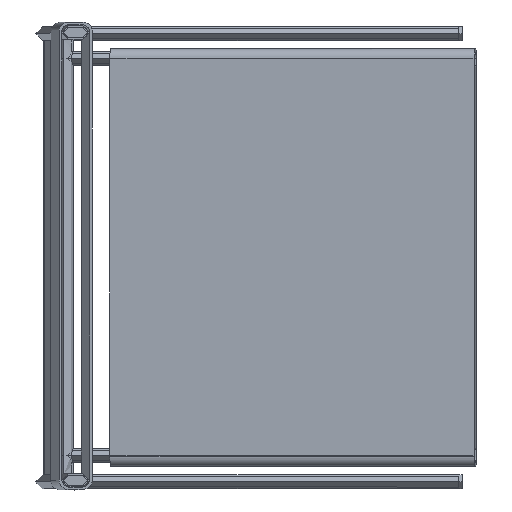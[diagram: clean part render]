
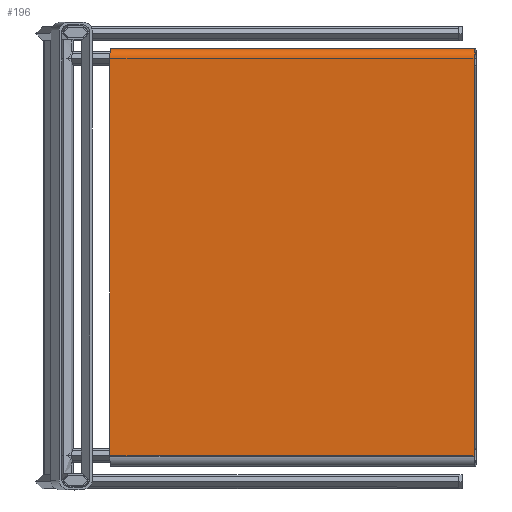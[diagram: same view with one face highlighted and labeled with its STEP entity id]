
A CAD part, top view. The second image highlights one B-rep face of the part: STEP entity #196.
In plain terms, the highlighted free-form (B-spline) face has degree [1, 3] with [2, 19] control points.
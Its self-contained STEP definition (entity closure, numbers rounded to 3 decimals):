
#196=ADVANCED_FACE($,(#415),#2844,.T.);
#415=FACE_OUTER_BOUND($,#636,.T.);
#636=EDGE_LOOP($,(#1040,#1041,#1042,#1043));
#1040=ORIENTED_EDGE($,*,*,#2014,.F.);
#1041=ORIENTED_EDGE($,*,*,#2018,.T.);
#1042=ORIENTED_EDGE($,*,*,#2012,.F.);
#1043=ORIENTED_EDGE($,*,*,#2009,.F.);
#2009=EDGE_CURVE($,#2507,#2506,#3395,.T.);
#2012=EDGE_CURVE($,#2506,#2510,#3398,.T.);
#2014=EDGE_CURVE($,#2511,#2507,#3400,.T.);
#2018=EDGE_CURVE($,#2511,#2510,#3404,.T.);
#2506=VERTEX_POINT($,#6092);
#2507=VERTEX_POINT($,#6093);
#2510=VERTEX_POINT($,#6096);
#2511=VERTEX_POINT($,#6097);
#2844=(
BOUNDED_SURFACE()
B_SPLINE_SURFACE(1,3,((#6022,#6023,#6024,#6025,#6026,#6027,#6028,#6029,#6030,
#6031,#6032,#6033,#6034,#6035,#6036,#6037,#6038,#6039,#6040),(#6041,#6042,
#6043,#6044,#6045,#6046,#6047,#6048,#6049,#6050,#6051,#6052,#6053,#6054,
#6055,#6056,#6057,#6058,#6059)),.UNSPECIFIED.,.F.,.F.,.F.)
B_SPLINE_SURFACE_WITH_KNOTS((2,2),(4,1,1,1,3,3,1,1,1,3,4),(0.,395.),
(887.567,891.713,896.206,900.698,904.844,
919.844,923.991,928.483,932.975,937.122,
1367.122),.UNSPECIFIED.)
GEOMETRIC_REPRESENTATION_ITEM()
RATIONAL_B_SPLINE_SURFACE(((1.,1.,1.,1.,1.,1.,1.,1.,1.,1.,1.,1.,1.,1.,1.,
1.,1.,1.,1.),(1.,1.,1.,1.,1.,1.,1.,1.,1.,1.,1.,1.,1.,1.,1.,1.,1.,1.,1.)))
REPRESENTATION_ITEM($)
SURFACE()
);
#3395=(
BOUNDED_CURVE()
B_SPLINE_CURVE(3,(#5833,#5834,#5835,#5836,#5837,#5838,#5839,#5840,#5841,
#5842,#5843,#5844,#5845,#5846,#5847,#5848,#5849,#5850,#5851),.UNSPECIFIED.,
.F.,.F.)
B_SPLINE_CURVE_WITH_KNOTS((4,1,1,1,3,3,1,1,1,3,4),(887.567,891.713,
896.206,900.698,904.844,919.844,923.991,
928.483,932.975,937.122,1367.122),.UNSPECIFIED.)
CURVE()
GEOMETRIC_REPRESENTATION_ITEM()
RATIONAL_B_SPLINE_CURVE((1.,1.,1.,1.,1.,1.,1.,1.,1.,1.,1.,1.,1.,1.,1.,1.,
1.,1.,1.))
REPRESENTATION_ITEM($)
);
#3398=(
BOUNDED_CURVE()
B_SPLINE_CURVE(1,(#5881,#5882),.UNSPECIFIED.,.F.,.F.)
B_SPLINE_CURVE_WITH_KNOTS((2,2),(0.,395.),.UNSPECIFIED.)
CURVE()
GEOMETRIC_REPRESENTATION_ITEM()
RATIONAL_B_SPLINE_CURVE((1.,1.))
REPRESENTATION_ITEM($)
);
#3400=(
BOUNDED_CURVE()
B_SPLINE_CURVE(1,(#5902,#5903),.UNSPECIFIED.,.F.,.F.)
B_SPLINE_CURVE_WITH_KNOTS((2,2),(-395.,0.),.UNSPECIFIED.)
CURVE()
GEOMETRIC_REPRESENTATION_ITEM()
RATIONAL_B_SPLINE_CURVE((1.,1.))
REPRESENTATION_ITEM($)
);
#3404=(
BOUNDED_CURVE()
B_SPLINE_CURVE(3,(#5921,#5922,#5923,#5924,#5925,#5926,#5927,#5928,#5929,
#5930,#5931,#5932,#5933,#5934,#5935,#5936,#5937,#5938,#5939),.UNSPECIFIED.,
.F.,.F.)
B_SPLINE_CURVE_WITH_KNOTS((4,1,1,1,3,3,1,1,1,3,4),(887.567,891.713,
896.206,900.698,904.844,919.844,923.991,
928.483,932.975,937.122,1367.122),.UNSPECIFIED.)
CURVE()
GEOMETRIC_REPRESENTATION_ITEM()
RATIONAL_B_SPLINE_CURVE((1.,1.,1.,1.,1.,1.,1.,1.,1.,1.,1.,1.,1.,1.,1.,1.,
1.,1.,1.))
REPRESENTATION_ITEM($)
);
#5833=CARTESIAN_POINT($,(630.732,445.449,463.345));
#5834=CARTESIAN_POINT($,(630.732,446.831,463.345));
#5835=CARTESIAN_POINT($,(630.703,449.71,463.894));
#5836=CARTESIAN_POINT($,(630.574,453.446,466.344));
#5837=CARTESIAN_POINT($,(630.379,455.899,470.075));
#5838=CARTESIAN_POINT($,(630.228,456.449,472.95));
#5839=CARTESIAN_POINT($,(630.156,456.449,474.33));
#5840=CARTESIAN_POINT($,(629.894,456.449,479.323));
#5841=CARTESIAN_POINT($,(629.632,456.449,484.316));
#5842=CARTESIAN_POINT($,(629.371,456.449,489.31));
#5843=CARTESIAN_POINT($,(629.298,456.449,490.69));
#5844=CARTESIAN_POINT($,(629.148,455.899,493.565));
#5845=CARTESIAN_POINT($,(628.952,453.446,497.296));
#5846=CARTESIAN_POINT($,(628.824,449.71,499.745));
#5847=CARTESIAN_POINT($,(628.795,446.831,500.294));
#5848=CARTESIAN_POINT($,(628.795,445.449,500.294));
#5849=CARTESIAN_POINT($,(628.795,302.116,500.294));
#5850=CARTESIAN_POINT($,(628.795,158.782,500.294));
#5851=CARTESIAN_POINT($,(628.795,15.449,500.294));
#5881=CARTESIAN_POINT($,(628.795,15.449,500.294));
#5882=CARTESIAN_POINT($,(234.336,15.449,479.622));
#5902=CARTESIAN_POINT($,(236.273,445.449,442.672));
#5903=CARTESIAN_POINT($,(630.732,445.449,463.345));
#5921=CARTESIAN_POINT($,(236.273,445.449,442.672));
#5922=CARTESIAN_POINT($,(236.273,446.831,442.672));
#5923=CARTESIAN_POINT($,(236.244,449.71,443.221));
#5924=CARTESIAN_POINT($,(236.116,453.446,445.671));
#5925=CARTESIAN_POINT($,(235.92,455.899,449.402));
#5926=CARTESIAN_POINT($,(235.769,456.449,452.277));
#5927=CARTESIAN_POINT($,(235.697,456.449,453.657));
#5928=CARTESIAN_POINT($,(235.435,456.449,458.651));
#5929=CARTESIAN_POINT($,(235.174,456.449,463.644));
#5930=CARTESIAN_POINT($,(234.912,456.449,468.637));
#5931=CARTESIAN_POINT($,(234.84,456.449,470.017));
#5932=CARTESIAN_POINT($,(234.689,455.899,472.892));
#5933=CARTESIAN_POINT($,(234.494,453.446,476.623));
#5934=CARTESIAN_POINT($,(234.365,449.71,479.073));
#5935=CARTESIAN_POINT($,(234.336,446.831,479.622));
#5936=CARTESIAN_POINT($,(234.336,445.449,479.622));
#5937=CARTESIAN_POINT($,(234.336,302.116,479.622));
#5938=CARTESIAN_POINT($,(234.336,158.782,479.622));
#5939=CARTESIAN_POINT($,(234.336,15.449,479.622));
#6022=CARTESIAN_POINT($,(630.732,445.449,463.345));
#6023=CARTESIAN_POINT($,(630.732,446.831,463.345));
#6024=CARTESIAN_POINT($,(630.703,449.71,463.894));
#6025=CARTESIAN_POINT($,(630.574,453.446,466.344));
#6026=CARTESIAN_POINT($,(630.379,455.899,470.075));
#6027=CARTESIAN_POINT($,(630.228,456.449,472.95));
#6028=CARTESIAN_POINT($,(630.156,456.449,474.33));
#6029=CARTESIAN_POINT($,(629.894,456.449,479.323));
#6030=CARTESIAN_POINT($,(629.632,456.449,484.316));
#6031=CARTESIAN_POINT($,(629.371,456.449,489.31));
#6032=CARTESIAN_POINT($,(629.298,456.449,490.69));
#6033=CARTESIAN_POINT($,(629.148,455.899,493.565));
#6034=CARTESIAN_POINT($,(628.952,453.446,497.296));
#6035=CARTESIAN_POINT($,(628.824,449.71,499.745));
#6036=CARTESIAN_POINT($,(628.795,446.831,500.294));
#6037=CARTESIAN_POINT($,(628.795,445.449,500.294));
#6038=CARTESIAN_POINT($,(628.795,302.116,500.294));
#6039=CARTESIAN_POINT($,(628.795,158.782,500.294));
#6040=CARTESIAN_POINT($,(628.795,15.449,500.294));
#6041=CARTESIAN_POINT($,(236.273,445.449,442.672));
#6042=CARTESIAN_POINT($,(236.273,446.831,442.672));
#6043=CARTESIAN_POINT($,(236.244,449.71,443.221));
#6044=CARTESIAN_POINT($,(236.116,453.446,445.671));
#6045=CARTESIAN_POINT($,(235.92,455.899,449.402));
#6046=CARTESIAN_POINT($,(235.769,456.449,452.277));
#6047=CARTESIAN_POINT($,(235.697,456.449,453.657));
#6048=CARTESIAN_POINT($,(235.435,456.449,458.651));
#6049=CARTESIAN_POINT($,(235.174,456.449,463.644));
#6050=CARTESIAN_POINT($,(234.912,456.449,468.637));
#6051=CARTESIAN_POINT($,(234.84,456.449,470.017));
#6052=CARTESIAN_POINT($,(234.689,455.899,472.892));
#6053=CARTESIAN_POINT($,(234.494,453.446,476.623));
#6054=CARTESIAN_POINT($,(234.365,449.71,479.073));
#6055=CARTESIAN_POINT($,(234.336,446.831,479.622));
#6056=CARTESIAN_POINT($,(234.336,445.449,479.622));
#6057=CARTESIAN_POINT($,(234.336,302.116,479.622));
#6058=CARTESIAN_POINT($,(234.336,158.782,479.622));
#6059=CARTESIAN_POINT($,(234.336,15.449,479.622));
#6092=CARTESIAN_POINT($,(628.795,15.449,500.294));
#6093=CARTESIAN_POINT($,(630.732,445.449,463.345));
#6096=CARTESIAN_POINT($,(234.336,15.449,479.622));
#6097=CARTESIAN_POINT($,(236.273,445.449,442.672));
